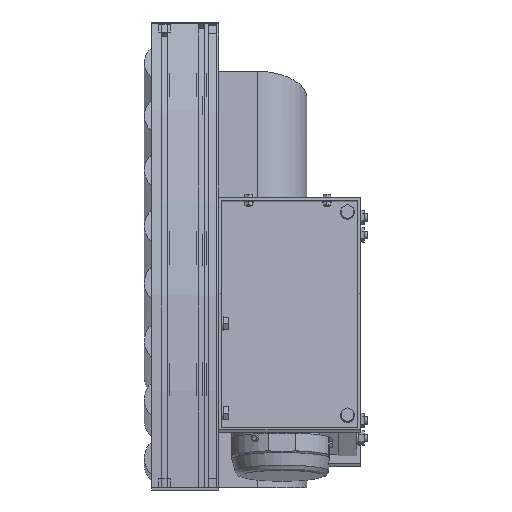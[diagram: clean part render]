
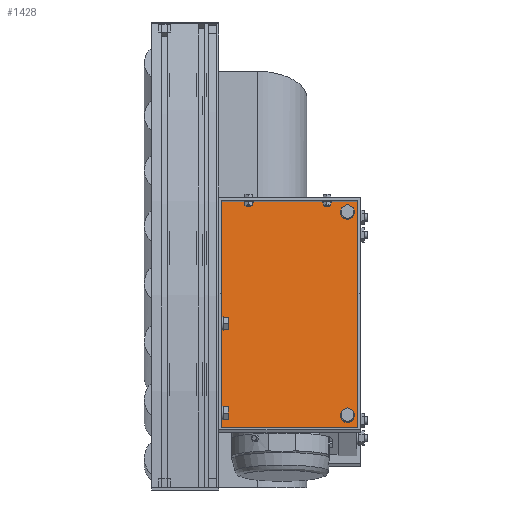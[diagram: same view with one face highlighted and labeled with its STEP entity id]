
A CAD part, left-side view. The second image highlights one B-rep face of the part: STEP entity #1428.
In plain terms, the highlighted planar face has unit normal (-0.991, 0, 0.131).
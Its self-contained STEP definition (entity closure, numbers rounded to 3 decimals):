
#1428=ADVANCED_FACE('',(#7045,#7046,#7047),#7044,.T.);
#7044=PLANE('',#16787);
#7045=FACE_OUTER_BOUND('',#16788,.T.);
#7046=FACE_BOUND('',#16789,.T.);
#7047=FACE_BOUND('',#16790,.T.);
#16784=CARTESIAN_POINT('',(-160.276,-296.8,67.731));
#16785=DIRECTION('',(-0.991,0.,0.131));
#16786=DIRECTION('',(0.131,0.,0.991));
#16787=AXIS2_PLACEMENT_3D('',#16784,#16785,#16786);
#16788=EDGE_LOOP('',(#22688,#22689,#22690,#22691));
#16789=EDGE_LOOP('',(#22692,#22693));
#16790=EDGE_LOOP('',(#22694,#22695));
#22688=ORIENTED_EDGE('',*,*,#27062,.F.);
#22689=ORIENTED_EDGE('',*,*,#27063,.F.);
#22690=ORIENTED_EDGE('',*,*,#27064,.F.);
#22691=ORIENTED_EDGE('',*,*,#27065,.F.);
#22692=ORIENTED_EDGE('',*,*,#27066,.T.);
#22693=ORIENTED_EDGE('',*,*,#27067,.T.);
#22694=ORIENTED_EDGE('',*,*,#27068,.T.);
#22695=ORIENTED_EDGE('',*,*,#27069,.T.);
#27062=EDGE_CURVE('',#36527,#36528,#36529,.T.);
#27063=EDGE_CURVE('',#36535,#36527,#36536,.T.);
#27064=EDGE_CURVE('',#36542,#36535,#36543,.T.);
#27065=EDGE_CURVE('',#36528,#36542,#36549,.T.);
#27066=EDGE_CURVE('',#36555,#36556,#36557,.T.);
#27067=EDGE_CURVE('',#36556,#36555,#36563,.T.);
#27068=EDGE_CURVE('',#36569,#36570,#36571,.T.);
#27069=EDGE_CURVE('',#36570,#36569,#36577,.T.);
#36527=VERTEX_POINT('',#52165);
#36528=VERTEX_POINT('',#52166);
#36529=LINE('',#52167,#52168);
#36535=VERTEX_POINT('',#52170);
#36536=LINE('',#52171,#52172);
#36542=VERTEX_POINT('',#52174);
#36543=LINE('',#52175,#52176);
#36549=LINE('',#52178,#52179);
#36555=VERTEX_POINT('',#52181);
#36556=VERTEX_POINT('',#52182);
#36557=CIRCLE('',#52186,5.5);
#36563=CIRCLE('',#52190,5.5);
#36569=VERTEX_POINT('',#52191);
#36570=VERTEX_POINT('',#52192);
#36571=CIRCLE('',#52196,5.5);
#36577=CIRCLE('',#52200,5.5);
#52165=CARTESIAN_POINT('',(-118.691,-286.8,383.606));
#52166=CARTESIAN_POINT('',(-158.971,-286.8,77.646));
#52167=CARTESIAN_POINT('',(-118.691,-286.8,383.606));
#52168=VECTOR('',#52169,308.6);
#52169=DIRECTION('',(-0.131,0.,-0.991));
#52170=CARTESIAN_POINT('',(-118.691,-103.2,383.606));
#52171=CARTESIAN_POINT('',(-118.691,-103.2,383.606));
#52172=VECTOR('',#52173,183.6);
#52173=DIRECTION('',(0.,-1.,0.));
#52174=CARTESIAN_POINT('',(-158.971,-103.2,77.646));
#52175=CARTESIAN_POINT('',(-158.971,-103.2,77.646));
#52176=VECTOR('',#52177,308.6);
#52177=DIRECTION('',(0.131,0.,0.991));
#52178=CARTESIAN_POINT('',(-158.971,-286.8,77.646));
#52179=VECTOR('',#52180,183.6);
#52180=DIRECTION('',(0.,1.,0.));
#52181=CARTESIAN_POINT('',(-157.17,-272.5,91.328));
#52182=CARTESIAN_POINT('',(-155.734,-272.5,102.233));
#52183=CARTESIAN_POINT('',(-156.452,-272.5,96.781));
#52184=DIRECTION('',(0.991,0.,-0.131));
#52185=DIRECTION('',(-0.131,0.,-0.991));
#52186=AXIS2_PLACEMENT_3D('',#52183,#52184,#52185);
#52187=CARTESIAN_POINT('',(-156.452,-272.5,96.781));
#52188=DIRECTION('',(0.991,0.,-0.131));
#52189=DIRECTION('',(-0.131,0.,-0.991));
#52190=AXIS2_PLACEMENT_3D('',#52187,#52188,#52189);
#52191=CARTESIAN_POINT('',(-121.275,-272.5,363.975));
#52192=CARTESIAN_POINT('',(-119.839,-272.5,374.881));
#52193=CARTESIAN_POINT('',(-120.557,-272.5,369.428));
#52194=DIRECTION('',(0.991,0.,-0.131));
#52195=DIRECTION('',(-0.131,0.,-0.991));
#52196=AXIS2_PLACEMENT_3D('',#52193,#52194,#52195);
#52197=CARTESIAN_POINT('',(-120.557,-272.5,369.428));
#52198=DIRECTION('',(0.991,0.,-0.131));
#52199=DIRECTION('',(-0.131,0.,-0.991));
#52200=AXIS2_PLACEMENT_3D('',#52197,#52198,#52199);
